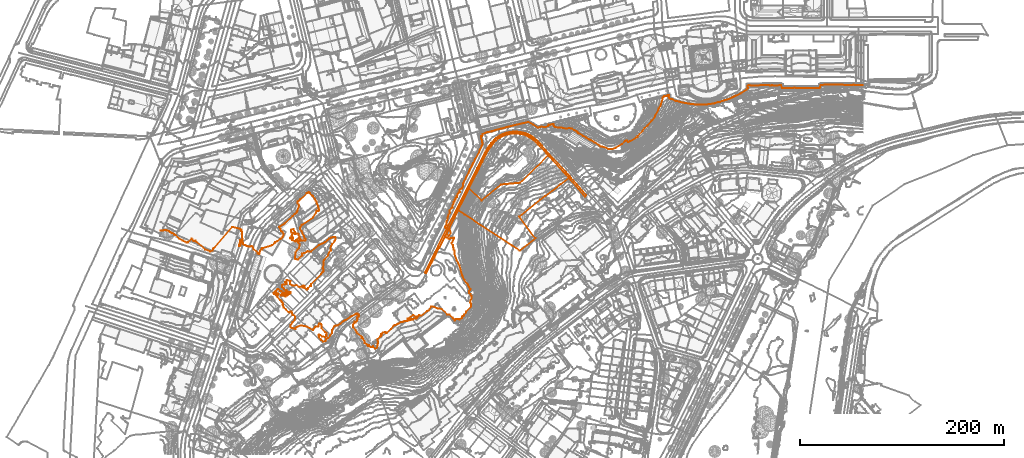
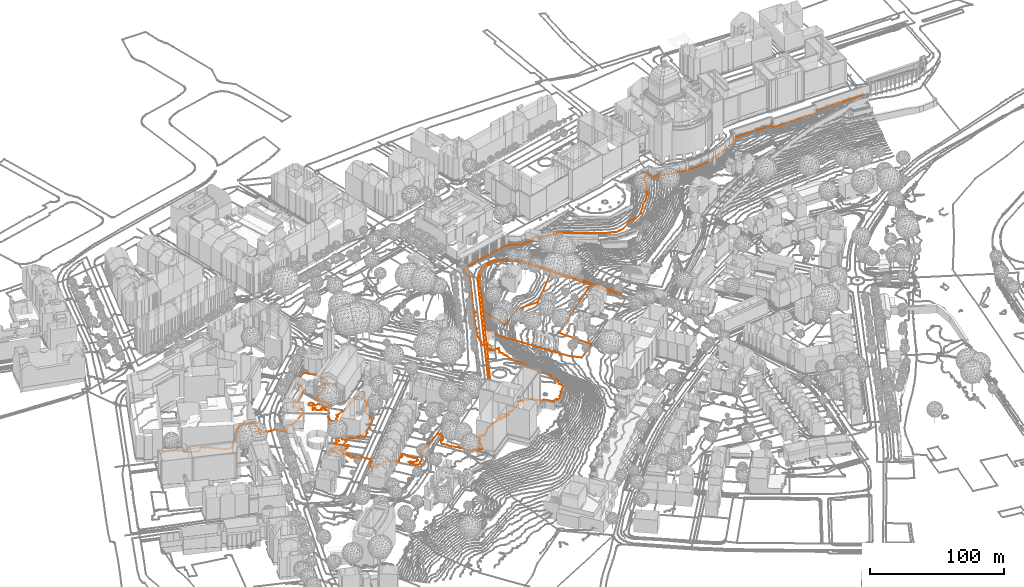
# Not in any storey, part 160 of 477: 2 geographic elements, 1 civil element.
"""IFC4 model written with IfcOpenShell, lengths in metres."""

from ifc_helpers import new_model, entity, si_unit, frame, origin_with_axes, place, context, subcontext, project, spatial, element, save


model = new_model("IFC4")

# Units and contexts
model_context = context("Model", 3, precision=1e-05, world=origin_with_axes())
body_context = subcontext(model_context, "Body", "Model", "MODEL_VIEW")
ifc_project = project(units=[si_unit("AREAUNIT", "SQUARE_METRE"), si_unit("LENGTHUNIT", "METRE")], contexts=[model_context])

# Sites
site_1_placement = place(None, origin_with_axes())
site_1 = spatial("IfcSite", under=ifc_project, at=site_1_placement, Name="Topoexport Site")
site_2_placement = place(site_1_placement, origin_with_axes())
site_2 = spatial("IfcSite", under=site_1, at=site_2_placement, Name="TPX_ROADS_OUTLINES")

# Civil element
civil_element_placement = place(site_2_placement, frame((258.4407320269, 176.5507160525, 534.9932303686), z_axis=(0.0, 0.0, 1.0), x_axis=(1.0, 0.0, 0.0)))
element("IfcCivilElement", 1, at=civil_element_placement, inside=site_2, Name="Roads Outline 39", ObjectType="ROAD", context=body_context, shape_type="GeometricCurveSet", body=[
    entity("IfcGeometricCurveSet", [entity("IfcIndexedPolyCurve", entity("IfcCartesianPointList3D", [[0.0, 0.0, 0.0], [28.0809999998, 55.9379999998, -2.1941897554], [51.3589999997, 102.412, -2.7051865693], [58.4509999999, 116.6199999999, -2.9280184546], [59.395, 118.3809999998, -2.9184431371], [60.4019999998, 120.108, -2.9298762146], [61.4689999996, 121.7969999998, -3.0008347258], [62.5959999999, 123.4479999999, -3.064816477], [63.7909999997, 125.0719999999, -3.1437195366], [65.0439999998, 126.652, -3.2449604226], [66.3529999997, 128.186, -3.3638527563], [67.7169999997, 129.6719999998, -3.4773492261], [68.7769999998, 130.669, -3.5242470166], [69.8869999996, 131.6089999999, -3.6548779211], [71.0449999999, 132.49, -3.7884079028], [72.2479999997, 133.3089999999, -3.9108324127], [73.3689999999, 133.9809999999, -4.0461532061], [74.5179999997, 134.605, -4.1854265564], [75.6919999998, 135.179, -4.3173669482], [76.8909999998, 135.7009999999, -4.4718245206], [78.1099999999, 136.1719999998, -4.6067301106], [79.2829999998, 136.5669999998, -4.7459179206], [80.4699999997, 136.9139999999, -4.8985820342], [81.6709999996, 137.2139999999, -5.0390430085], [82.8819999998, 137.4649999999, -5.2125437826], [84.0219999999, 137.6649999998, -5.386561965], [85.1699999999, 137.814, -5.5716109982], [86.3239999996, 137.912, -5.755787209], [87.693, 137.9609999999, -5.9784115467], [89.0619999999, 137.9379999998, -6.2307997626], [90.4279999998, 137.8429999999, -6.4846069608], [90.9819999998, 137.7819999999, -6.581986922], [91.5349999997, 137.7179999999, -6.7101741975], [92.0959999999, 137.6479999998, -6.8181850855], [92.6569999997, 137.5729999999, -6.919363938], [93.1999999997, 137.4939999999, -7.0449811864], [93.7419999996, 137.4069999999, -7.1700640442], [94.2889999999, 137.3099999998, -7.2558833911], [94.835, 137.2049999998, -7.3405940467], [95.3729999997, 137.0919999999, -7.4646587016], [95.909, 136.9719999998, -7.5907427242], [96.4519999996, 136.8399999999, -7.695318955], [96.9939999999, 136.7009999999, -7.8042030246], [97.5429999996, 136.5549999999, -7.9361181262], [98.0869999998, 136.3939999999, -8.0451588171], [98.6119999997, 136.2259999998, -8.1346325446], [99.1299999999, 136.0389999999, -8.2594257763], [99.6309999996, 135.8289999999, -8.3953654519], [100.1299999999, 135.615, -8.5004742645], [100.639, 135.3929999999, -8.5900460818], [101.1429999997, 135.1609999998, -8.6610349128], [102.1369999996, 134.669, -8.86525333], [102.6329999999, 134.4099999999, -8.9685751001], [103.125, 134.142, -9.0752280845], [103.5979999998, 133.8709999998, -9.194695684], [104.0669999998, 133.5919999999, -9.3115271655], [104.5389999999, 133.3029999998, -9.4322658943], [105.0039999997, 133.0029999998, -9.5430415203], [105.4669999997, 132.6849999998, -9.6327798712], [105.926, 132.362, -9.7249984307], [106.6689999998, 131.8189999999, -9.9233890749], [106.7859999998, 131.7349999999, -9.9518808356], [107.6719999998, 131.0669999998, -10.1928173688], [108.5899999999, 130.3289999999, -10.3543799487], [109.4149999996, 129.5829999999, -10.5653008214], [110.8169999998, 128.2629999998, -10.9705973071], [111.5739999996, 127.463, -11.2037465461], [112.341, 126.6399999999, -11.4196706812], [113.1819999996, 125.7659999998, -11.6384592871], [114.6689999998, 124.1469999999, -12.0301406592], [118.8789999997, 119.598, -13.1267878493], [138.537, 98.2239999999, -18.2417623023], [140.0419999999, 96.595, -18.6389232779], [141.5259999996, 94.9469999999, -19.0241555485], [142.5049999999, 93.838, -19.2953215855], [143.4739999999, 92.7209999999, -19.5544556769], [158.2519999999, 75.6159999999, -23.1454427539], [157.0629999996, 74.588, -23.2337562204], [156.9139999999, 74.4589999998, -23.2733692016], [142.2559999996, 91.6719999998, -19.8701355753], [141.2939999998, 92.777, -19.2123920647], [140.3259999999, 93.8779999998, -19.0018966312], [138.8489999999, 95.5159999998, -18.6023526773], [137.3529999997, 97.1359999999, -18.2573435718], [121.9359999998, 113.9509999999, -14.1481618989], [121.0049999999, 114.9839999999, -13.8669859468], [120.0639999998, 116.0089999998, -13.5989385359], [119.4389999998, 116.6779999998, -13.4766328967], [118.8099999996, 117.3429999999, -13.3391813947], [112.2089999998, 124.4679999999, -11.5678379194], [111.1819999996, 125.5489999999, -11.2597870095], [110.4559999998, 126.328, -11.0664479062], [109.7319999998, 127.0649999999, -10.9305952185], [108.4159999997, 128.3909999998, -10.5483261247], [107.5529999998, 129.1209999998, -10.3187222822], [106.713, 129.808, -10.1239754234], [106.8429999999, 129.9859999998, -10.1139167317], [106.0159999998, 130.618, -9.93410246], [105.5349999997, 130.929, -9.8262239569], [105.4509999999, 130.8019999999, -9.8125750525], [105.0439999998, 131.0989999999, -9.6743166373], [104.179, 131.666, -9.4657143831], [103.3119999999, 132.2379999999, -9.272102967], [102.3809999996, 132.7689999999, -9.0337141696], [101.4709999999, 133.26, -8.8326163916], [100.5069999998, 133.72, -8.5761258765], [99.5449999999, 134.166, -8.3607004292], [98.7909999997, 134.5, -8.2279269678], [98.8589999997, 134.686, -8.2342245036], [98.287, 134.906, -8.0808136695], [97.7069999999, 135.1009999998, -7.9246045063], [97.2109999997, 135.2459999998, -7.8267730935], [96.71, 135.3729999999, -7.7247022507], [96.645, 135.176, -7.7168262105], [95.6149999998, 135.4479999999, -7.5981515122], [94.6119999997, 135.6609999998, -7.3517283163], [93.5689999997, 135.8359999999, -7.2071753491], [92.4819999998, 135.96, -6.8781154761], [91.3899999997, 136.0859999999, -6.5484054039], [90.2999999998, 136.1969999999, -6.3251213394], [89.1109999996, 136.314, -6.081226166], [87.716, 136.338, -5.9369522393], [86.3219999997, 136.284, -5.7734608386], [84.9249999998, 136.152, -5.583743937], [83.537, 135.9419999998, -5.3670835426], [80.9519999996, 135.358, -5.0110264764], [78.605, 134.629, -4.7393588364], [78.0719999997, 134.4669999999, -4.6891772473], [77.548, 134.2759999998, -4.6073420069], [76.8569999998, 133.9689999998, -4.42221271], [76.1909999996, 133.6109999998, -4.3380241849], [73.8669999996, 132.4009999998, -4.0671826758], [71.7409999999, 131.041, -3.8227268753], [69.7879999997, 129.4819999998, -3.5710585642], [68.0319999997, 127.6779999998, -3.4375213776], [66.395, 125.7749999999, -3.2821843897], [64.6739999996, 123.575, -2.8625301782], [64.477, 123.7119999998, -2.9101156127], [63.3959999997, 122.142, -2.8953436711], [63.5829999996, 122.024, -2.8666530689], [62.0629999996, 119.6649999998, -2.7936856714], [60.6409999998, 117.308, -2.8427328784], [60.4449999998, 117.399, -2.8604498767], [59.622, 115.841, -2.8083477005], [59.8129999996, 115.737, -2.7867799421], [57.2109999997, 110.5419999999, -2.7858780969], [57.0069999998, 110.6209999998, -2.7920559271], [56.176, 108.9949999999, -2.8837072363], [56.3729999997, 108.8779999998, -2.8921651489], [53.7089999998, 103.5469999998, -2.7691698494], [53.5069999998, 103.6409999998, -2.7660103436], [52.7369999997, 102.102, -2.7572973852], [52.9339999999, 101.9839999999, -2.7746390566], [28.9139999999, 53.8529999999, -2.0496232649], [13.9579999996, 24.041, -1.1704440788], [13.8149999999, 24.115, -1.1579527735], [9.3199999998, 15.162, -0.6639904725], [1.3629999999, -0.6850000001, -0.0392285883], [0.0, 0.0, 0.0]]))]),
])

# Site
site_3_placement = place(site_1_placement, origin_with_axes())
site_3 = spatial("IfcSite", under=site_1, at=site_3_placement, Name="TPX_CADASTRES")

# Geographic element
geographic_element_1_placement = place(site_3_placement, frame((290.9347320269, 237.4897160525, 532.4584425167), z_axis=(0.0, 0.0, 1.0), x_axis=(1.0, 0.0, 0.0)))
element("IfcGeographicElement", 2, at=geographic_element_1_placement, inside=site_3, Name="Cadastre 36", PredefinedType="NOTDEFINED", context=body_context, shape_type="GeometricCurveSet", body=[
    entity("IfcGeometricCurveSet", [entity("IfcIndexedPolyCurve", entity("IfcCartesianPointList3D", [[0.0, 0.0, 0.0], [10.662, 21.257, -0.291453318], [22.8699999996, 9.4709999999, -10.02995243], [42.0979999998, 25.2819999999, -12.0196683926], [60.9249999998, 26.9319999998, -13.272535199], [88.4239999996, 53.9829999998, -11.3228963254], [103.165, 37.9399999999, -15.145095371], [105.2059999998, 35.6449999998, -15.888453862], [105.2760000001, 35.706, -15.8650785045], [108.852, 31.6349999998, -16.7063478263], [108.4399999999, 31.3229999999, -16.7585370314], [100.7109999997, 25.473, -18.8629936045], [85.3429999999, 13.8219999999, -19.50225592], [80.389, 10.3199999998, -20.4497011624], [60.0189999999, -6.432, -20.6967910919], [75.7939999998, -27.493, -23.6460400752], [60.5039999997, -39.6310000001, -23.0355200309], [52.9589999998, -34.689, -22.2993889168], [6.2429999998, -4.0890000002, -4.7964509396], [0.0, 0.0, 0.0]]))]),
])

# Site
site_4_placement = place(site_1_placement, origin_with_axes())
site_4 = spatial("IfcSite", under=site_1, at=site_4_placement, Name="TPX_CONTOUR_LINES")

# Geographic element
geographic_element_2_placement = place(site_4_placement, frame((-0.8222679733, 217.480918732, 533.0), z_axis=(0.0, 0.0, 1.0), x_axis=(1.0, 0.0, 0.0)))
element("IfcGeographicElement", 3, at=geographic_element_2_placement, inside=site_4, Name="Contour Line 533.0 m", PredefinedType="NOTDEFINED", context=body_context, shape_type="GeometricCurveSet", body=[
    entity("IfcGeometricCurveSet", [entity("IfcIndexedPolyCurve", entity("IfcCartesianPointList3D", [[689.0, 142.7325738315, 0.0], [679.5, 142.9629616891, 0.0], [676.5, 142.7258382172, 0.0], [672.5, 142.9539471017, 0.0], [671.5, 142.7337571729, 0.0], [668.5, 143.0586924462, 0.0], [647.5, 142.9484146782, 0.0], [647.0990375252, 142.6897973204, 0.0], [646.5, 140.0484453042, 0.0], [645.5, 139.8931886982, 0.0], [634.5, 139.9303334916, 0.0], [631.5, 139.678867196, 0.0], [627.5, 139.9935244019, 0.0], [624.5, 139.7514564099, 0.0], [621.5, 140.0660688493, 0.0], [616.5, 139.590720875, 0.0], [612.5, 139.9324431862, 0.0], [609.5, 139.6819913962, 0.0], [608.5489966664, 142.6897973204, 0.0], [607.5, 142.8733901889, 0.0], [604.5, 142.2460552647, 0.0], [601.5, 142.1967164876, 0.0], [599.5, 142.5562218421, 0.0], [597.5, 142.126823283, 0.0], [596.5, 142.5094188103, 0.0], [594.5, 142.6757826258, 0.0], [580.5, 142.2963387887, 0.0], [576.5, 142.5947470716, 0.0], [575.4489240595, 141.6897973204, 0.0], [575.9592691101, 139.6897973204, 0.0], [574.5, 138.1688085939, 0.0], [568.5, 134.4263438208, 0.0], [564.5, 132.2679764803, 0.0], [563.5, 132.1103323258, 0.0], [562.5, 131.275268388, 0.0], [561.5, 131.0848554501, 0.0], [560.5, 130.4458472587, 0.0], [555.5, 128.442667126, 0.0], [553.5, 128.0515485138, 0.0], [552.5, 127.4846581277, 0.0], [550.5, 127.1179730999, 0.0], [548.5, 126.2928979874, 0.0], [546.5, 126.0508003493, 0.0], [543.5, 124.8773699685, 0.0], [537.5, 123.9139763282, 0.0], [533.5, 123.6444730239, 0.0], [527.5, 123.3655762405, 0.0], [519.5, 124.1824189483, 0.0], [512.5, 125.3999912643, 0.0], [508.5, 126.2992649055, 0.0], [506.5, 127.0730645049, 0.0], [505.5, 126.9365635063, 0.0], [501.5, 128.7845143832, 0.0], [500.5, 128.9496374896, 0.0], [499.3840748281, 129.6897973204, 0.0], [498.611930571, 130.6897973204, 0.0], [498.2703512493, 131.6897973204, 0.0], [498.5732363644, 132.6897973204, 0.0], [497.3119762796, 132.6897973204, 0.0], [496.5, 132.095711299, 0.0], [493.9817403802, 131.6897973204, 0.0], [493.5, 131.0922284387, 0.0], [492.2654750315, 130.6897973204, 0.0], [492.478348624, 129.6897973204, 0.0], [490.3188537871, 122.6897973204, 0.0], [488.5747082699, 119.6897973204, 0.0], [485.0818709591, 112.6897973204, 0.0], [484.8123159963, 111.6897973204, 0.0], [481.6635665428, 107.6897973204, 0.0], [477.5, 103.1456046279, 0.0], [474.6155037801, 100.6897973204, 0.0], [472.4549680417, 97.6897973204, 0.0], [467.8142038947, 92.6897973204, 0.0], [467.6965117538, 91.6897973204, 0.0], [466.5, 91.2222202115, 0.0], [460.5, 87.6061180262, 0.0], [458.5, 86.9833341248, 0.0], [457.5, 88.155541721, 0.0], [456.5, 88.1319359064, 0.0], [455.5, 87.7309512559, 0.0], [452.5, 85.0844570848, 0.0], [446.5, 81.3190067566, 0.0], [443.5, 80.1349724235, 0.0], [442.5, 80.0049093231, 0.0], [439.5, 79.8281267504, 0.0], [434.5, 82.0857880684, 0.0], [431.5, 82.6363149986, 0.0], [430.5, 83.6462669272, 0.0], [425.5, 86.3618793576, 0.0], [424.5, 87.320550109, 0.0], [421.5, 88.6600932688, 0.0], [420.5, 89.5299219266, 0.0], [419.5, 89.6661478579, 0.0], [417.5, 91.2826106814, 0.0], [414.4970876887, 92.6897973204, 0.0], [410.5, 95.4122106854, 0.0], [409.5, 95.6002950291, 0.0], [409.0425281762, 96.6897973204, 0.0], [408.5, 97.1897412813, 0.0], [405.5, 98.5353620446, 0.0], [403.5, 99.8432689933, 0.0], [400.5, 100.6287044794, 0.0], [397.5, 99.8942775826, 0.0], [394.5, 100.7437810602, 0.0], [387.5, 101.3828799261, 0.0], [386.7378252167, 101.6897973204, 0.0], [386.012470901, 102.6897973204, 0.0], [385.5927903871, 103.6897973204, 0.0], [385.5718785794, 104.6897973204, 0.0], [384.28297573, 104.6897973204, 0.0], [381.5, 103.575047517, 0.0], [380.5, 103.7756216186, 0.0], [380.0989029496, 102.6897973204, 0.0], [377.5, 101.5013529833, 0.0], [375.5, 101.5521481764, 0.0], [373.5, 101.9851517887, 0.0], [370.5, 101.1551063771, 0.0], [369.5, 101.1738391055, 0.0], [365.5, 103.8936464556, 0.0], [360.5, 106.4992039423, 0.0], [341.5, 102.0388751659, 0.0], [339.5, 101.3165961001, 0.0], [336.5, 100.6994338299, 0.0], [335.5, 100.2027773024, 0.0], [332.5, 99.8204772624, 0.0], [330.5, 98.9967817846, 0.0], [328.5, 98.7447821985, 0.0], [327.5, 98.1184524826, 0.0], [325.23229384, 97.6897973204, 0.0], [324.5, 97.196977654, 0.0], [320.8131724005, 96.6897973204, 0.0], [315.8266126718, 94.6897973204, 0.0], [315.8602408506, 93.6897973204, 0.0], [315.5, 92.7801881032, 0.0], [314.5, 92.5368942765, 0.0], [314.3462699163, 91.6897973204, 0.0], [314.34447031, 90.6897973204, 0.0], [315.1430671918, 88.6897973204, 0.0], [315.3243328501, 86.6897973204, 0.0], [315.7783505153, 85.6897973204, 0.0], [315.6815552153, 84.6897973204, 0.0], [314.9109852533, 82.6897973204, 0.0], [313.2642926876, 79.6897973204, 0.0], [312.191366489, 76.6897973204, 0.0], [308.5, 70.3289121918, 0.0], [308.0096344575, 68.6897973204, 0.0], [306.5, 66.0930294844, 0.0], [306.2056519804, 64.6897973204, 0.0], [305.5, 63.9927690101, 0.0], [305.0379611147, 62.6897973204, 0.0], [303.5, 60.3239387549, 0.0], [303.1837666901, 58.6897973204, 0.0], [302.5, 58.0422099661, 0.0], [302.1222935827, 56.6897973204, 0.0], [299.5, 52.0733935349, 0.0], [299.1985012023, 50.6897973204, 0.0], [297.5, 48.2190452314, 0.0], [297.0533161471, 46.6897973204, 0.0], [296.5, 45.9794372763, 0.0], [296.5296854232, 43.6897973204, 0.0], [295.9673335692, 41.6897973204, 0.0], [295.5, 41.2192562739, 0.0], [294.5, 40.9869705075, 0.0], [293.4358622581, 39.6897973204, 0.0], [293.1372138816, 38.6897973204, 0.0], [293.6577021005, 37.6897973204, 0.0], [292.5, 37.2066905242, 0.0], [291.5, 35.8909276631, 0.0], [290.5, 33.8930765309, 0.0], [290.6980752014, 32.6897973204, 0.0], [289.5, 31.969983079, 0.0], [289.3311558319, 30.6897973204, 0.0], [288.5, 29.8235954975, 0.0], [288.1819576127, 28.6897973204, 0.0], [287.5, 28.03600772, 0.0], [287.4041491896, 26.6897973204, 0.0], [286.4033401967, 24.6897973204, 0.0], [286.5167023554, 22.6897973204, 0.0], [285.5, 21.9564086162, 0.0], [283.5, 19.7504653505, 0.0], [283.5, 18.4547785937, 0.0], [284.0550271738, 17.6897973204, 0.0], [282.4185385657, 15.6897973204, 0.0], [281.517699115, 12.6897973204, 0.0], [281.3542880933, 10.6897973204, 0.0], [280.5, 8.7591614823, 0.0], [280.5, 5.9755116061, 0.0], [279.5, 4.7246810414, 0.0], [279.1814310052, 3.6897973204, 0.0], [279.5, 2.4321442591, 0.0], [280.5, 1.5078120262, 0.0], [281.5, 1.6689277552, 0.0], [281.9357585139, 0.6897973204, 0.0], [282.5, 0.223982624, 0.0], [283.2730646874, 0.6897973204, 0.0], [283.5392156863, 1.6897973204, 0.0], [284.6072056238, -2.3102026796, 0.0], [282.5, -5.1136214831, 0.0], [280.5, -3.2858437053, 0.0], [279.2403339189, -5.3102026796, 0.0], [279.5, -5.793440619, 0.0], [280.5, -6.7441440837, 0.0], [281.5, -6.6209869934, 0.0], [282.5, -7.5552243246, 0.0], [283.5, -8.0256838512, 0.0], [284.5, -7.4155778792, 0.0], [285.5, -7.4400201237, 0.0], [287.5, -6.7220414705, 0.0], [288.0653753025, -7.3102026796, 0.0], [287.2079796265, -8.3102026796, 0.0], [286.5, -10.6875611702, 0.0], [285.3701517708, -12.3102026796, 0.0], [286.839817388, -14.3102026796, 0.0], [286.7548895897, -16.3102026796, 0.0], [287.4756262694, -17.3102026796, 0.0], [287.6084689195, -18.3102026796, 0.0], [288.4166926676, -19.3102026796, 0.0], [288.2315974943, -22.3102026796, 0.0], [290.5, -28.9665953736, 0.0], [291.9266183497, -31.3102026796, 0.0], [293.212943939, -34.3102026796, 0.0], [296.0311329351, -44.3102026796, 0.0], [298.027547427, -48.3102026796, 0.0], [300.5, -51.9496763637, 0.0], [301.5, -52.6985472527, 0.0], [302.5, -55.409562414, 0.0], [303.9236262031, -57.3102026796, 0.0], [303.6166838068, -58.3102026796, 0.0], [302.819208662, -59.3102026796, 0.0], [302.6403311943, -60.3102026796, 0.0], [302.7377908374, -61.3102026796, 0.0], [303.8835894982, -62.3102026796, 0.0], [304.932969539, -64.3102026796, 0.0], [305.0315671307, -66.3102026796, 0.0], [304.0442283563, -68.3102026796, 0.0], [303.5715029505, -70.3102026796, 0.0], [304.5, -71.5341928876, 0.0], [304.7328884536, -72.3102026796, 0.0], [304.6644580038, -74.3102026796, 0.0], [299.7905378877, -79.3102026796, 0.0], [299.6720212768, -80.3102026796, 0.0], [297.6906318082, -82.3102026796, 0.0], [297.5, -83.1085083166, 0.0], [296.5, -83.5275195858, 0.0], [295.7120585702, -84.3102026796, 0.0], [295.5, -85.4774042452, 0.0], [293.5, -86.9644709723, 0.0], [291.5, -86.4499485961, 0.0], [289.5, -86.8283303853, 0.0], [288.5, -88.3468900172, 0.0], [288.1902258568, -87.3102026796, 0.0], [286.9252122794, -86.3102026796, 0.0], [286.4220470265, -85.3102026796, 0.0], [283.5, -82.3480337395, 0.0], [281.2200260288, -82.3102026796, 0.0], [275.5, -76.8098193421, 0.0], [272.2073490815, -76.3102026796, 0.0], [266.5, -74.3184671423, 0.0], [265.5, -74.590904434, 0.0], [262.8658415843, -78.3102026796, 0.0], [261.5, -78.7729686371, 0.0], [255.5, -83.4789598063, 0.0], [254.2983539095, -83.3102026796, 0.0], [253.5, -82.591684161, 0.0], [252.5, -84.2036267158, 0.0], [252.0252525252, -84.3102026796, 0.0], [251.6169916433, -85.3102026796, 0.0], [250.6698924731, -86.3102026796, 0.0], [248.7045454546, -86.3102026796, 0.0], [249.5, -86.2284269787, 0.0], [249.9734939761, -85.3102026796, 0.0], [249.920689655, -84.3102026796, 0.0], [247.5, -82.9258276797, 0.0], [242.2807228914, -86.3102026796, 0.0], [242.5, -86.6786237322, 0.0], [243.5, -86.9445719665, 0.0], [247.5, -86.5347789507, 0.0], [247.7995090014, -87.3102026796, 0.0], [244.5, -87.5276714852, 0.0], [243.5, -87.7384682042, 0.0], [243.0630114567, -88.3102026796, 0.0], [239.5, -88.6977133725, 0.0], [238.3281505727, -89.3102026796, 0.0], [235.5, -89.736383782, 0.0], [233.5, -91.1227026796, 0.0], [232.5, -91.3524925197, 0.0], [230.5, -92.5404509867, 0.0], [229.5, -92.6977528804, 0.0], [228.6632373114, -93.3102026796, 0.0], [226.0675675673, -96.3102026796, 0.0], [221.5, -100.6081556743, 0.0], [220.7591894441, -100.3102026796, 0.0], [220.5, -99.5061091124, 0.0], [218.5, -99.7527492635, 0.0], [217.5, -101.0658034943, 0.0], [216.4575757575, -101.3102026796, 0.0], [216.7861635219, -102.3102026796, 0.0], [216.5, -103.4280020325, 0.0], [215.5, -103.7525332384, 0.0], [213.0860409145, -106.3102026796, 0.0], [212.7476780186, -107.3102026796, 0.0], [213.5, -108.9023079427, 0.0], [213.5295898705, -110.3102026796, 0.0], [212.8537082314, -111.3102026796, 0.0], [212.5, -114.7636692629, 0.0], [210.5, -115.5400819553, 0.0], [208.6056277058, -114.3102026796, 0.0], [208.5, -112.9696229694, 0.0], [207.5, -114.0733094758, 0.0], [206.5, -113.9783516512, 0.0], [205.5, -113.496284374, 0.0], [204.5, -112.3848826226, 0.0], [203.5, -113.0663907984, 0.0], [203.3125191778, -112.3102026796, 0.0], [202.5, -111.6040693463, 0.0], [200.1809392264, -110.3102026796, 0.0], [199.9252191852, -108.3102026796, 0.0], [198.5, -105.8938077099, 0.0], [197.3982278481, -105.3102026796, 0.0], [197.4746258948, -104.3102026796, 0.0], [193.5, -101.0097356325, 0.0], [192.3048351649, -99.3102026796, 0.0], [191.49107674, -97.3102026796, 0.0], [189.5, -94.9275496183, 0.0], [188.6683848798, -94.3102026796, 0.0], [188.9200303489, -92.3102026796, 0.0], [189.5, -91.3226057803, 0.0], [190.748046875, -90.3102026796, 0.0], [190.4444444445, -89.3102026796, 0.0], [191.5, -89.9886995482, 0.0], [192.83364486, -88.3102026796, 0.0], [193.1273743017, -87.3102026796, 0.0], [192.9300810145, -85.3102026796, 0.0], [194.2103136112, -84.3102026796, 0.0], [194.903292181, -83.3102026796, 0.0], [194.5054744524, -82.3102026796, 0.0], [193.2954545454, -82.3102026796, 0.0], [193.0494736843, -81.3102026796, 0.0], [192.5, -81.111219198, 0.0], [191.5, -81.8660624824, 0.0], [187.5, -83.7002122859, 0.0], [181.5, -87.6060638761, 0.0], [179.5, -88.5558132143, 0.0], [176.5, -91.0418803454, 0.0], [173.5, -93.0412701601, 0.0], [170.5, -93.3157970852, 0.0], [168.4588465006, -97.3102026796, 0.0], [168.1153028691, -98.3102026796, 0.0], [168.0576036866, -100.3102026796, 0.0], [166.5, -102.8653739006, 0.0], [164.5, -105.1891930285, 0.0], [162.5343888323, -106.3102026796, 0.0], [161.8050770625, -108.3102026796, 0.0], [159.5, -108.7203569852, 0.0], [157.5, -107.4228005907, 0.0], [157.1936913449, -106.3102026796, 0.0], [155.3426361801, -104.3102026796, 0.0], [155.176240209, -102.3102026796, 0.0], [155.5, -102.0857682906, 0.0], [156.5, -102.4222923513, 0.0], [158.5, -103.8634320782, 0.0], [161.5, -104.2997549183, 0.0], [162.7957467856, -103.3102026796, 0.0], [162.6540312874, -102.3102026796, 0.0], [162.9665849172, -101.3102026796, 0.0], [162.7017434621, -100.3102026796, 0.0], [161.5, -99.5860320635, 0.0], [158.1591448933, -95.3102026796, 0.0], [157.8949453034, -94.3102026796, 0.0], [157.9239436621, -92.3102026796, 0.0], [157.5, -91.6785132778, 0.0], [156.5, -91.1421642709, 0.0], [155.3241288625, -91.3102026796, 0.0], [154.8946428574, -92.3102026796, 0.0], [155.0475528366, -93.3102026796, 0.0], [154.5, -93.8626718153, 0.0], [153.5, -94.1026269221, 0.0], [152.5, -93.8768879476, 0.0], [151.8619556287, -94.3102026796, 0.0], [150.5, -95.7589526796, 0.0], [149.5, -97.5541785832, 0.0], [143.5, -94.0871055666, 0.0], [137.5, -92.8665166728, 0.0], [133.4575518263, -94.3102026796, 0.0], [132.4994295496, -95.3102026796, 0.0], [132.7095689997, -96.3102026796, 0.0], [132.5, -96.6007728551, 0.0], [128.5, -95.2652218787, 0.0], [127.6657882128, -94.3102026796, 0.0], [127.7728119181, -92.3102026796, 0.0], [129.5, -89.782584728, 0.0], [131.5, -87.7822674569, 0.0], [132.1733668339, -84.3102026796, 0.0], [130.5, -82.7948180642, 0.0], [129.5, -82.6048455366, 0.0], [128.7548076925, -79.3102026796, 0.0], [128.5, -79.1592055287, 0.0], [127.5, -79.5231113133, 0.0], [126.5, -80.2949672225, 0.0], [125.5, -79.6785760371, 0.0], [123.2211478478, -77.3102026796, 0.0], [120.6739634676, -75.3102026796, 0.0], [120.5047808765, -73.3102026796, 0.0], [119.9912109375, -72.3102026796, 0.0], [120.322265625, -71.3102026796, 0.0], [119.5, -69.8380035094, 0.0], [118.8116883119, -69.3102026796, 0.0], [118.2793733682, -68.3102026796, 0.0], [117.5, -68.0871085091, 0.0], [114.8601220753, -65.3102026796, 0.0], [114.7877697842, -64.3102026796, 0.0], [114.5, -63.8352686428, 0.0], [113.3003220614, -63.3102026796, 0.0], [113.1852071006, -62.3102026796, 0.0], [111.5, -62.097504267, 0.0], [111.0292331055, -61.3102026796, 0.0], [111.5, -60.6163022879, 0.0], [112.5, -60.2410202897, 0.0], [113.2457627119, -60.3102026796, 0.0], [113.5, -61.496747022, 0.0], [114.5, -62.7612371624, 0.0], [115.5, -62.6847567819, 0.0], [116.0449826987, -62.3102026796, 0.0], [115.5, -61.5910245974, 0.0], [114.5, -61.7023959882, 0.0], [113.724264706, -61.3102026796, 0.0], [113.6153846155, -60.3102026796, 0.0], [113.1128364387, -59.3102026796, 0.0], [114.5, -57.5321732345, 0.0], [115.5, -57.1705201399, 0.0], [117.5, -59.0000496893, 0.0], [118.5, -59.0211810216, 0.0], [118.9515752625, -59.3102026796, 0.0], [120.5, -60.901029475, 0.0], [121.5, -61.2790984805, 0.0], [122.5, -60.9150061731, 0.0], [123.5001289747, -61.3102026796, 0.0], [122.5, -62.0459750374, 0.0], [121.5, -61.3534927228, 0.0], [120.5, -61.867768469, 0.0], [119.5, -61.9140533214, 0.0], [118.2587628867, -63.3102026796, 0.0], [118.5, -63.5816643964, 0.0], [119.5, -63.8147758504, 0.0], [120.5, -63.0171671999, 0.0], [121.5, -63.1995386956, 0.0], [121.7380952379, -63.3102026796, 0.0], [121.8515625, -64.3102026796, 0.0], [122.5, -64.4410143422, 0.0], [123.5, -63.5584689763, 0.0], [124.9096109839, -63.3102026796, 0.0], [127.4901477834, -61.3102026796, 0.0], [127.5300601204, -60.3102026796, 0.0], [126.5, -59.9616549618, 0.0], [125.5, -61.0677248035, 0.0], [124.5, -59.4761777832, 0.0], [123.6578947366, -59.3102026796, 0.0], [123.8294573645, -58.3102026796, 0.0], [123.5, -58.2122011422, 0.0], [122.5, -58.8761912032, 0.0], [121.1438653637, -57.3102026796, 0.0], [120.9014209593, -56.3102026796, 0.0], [119.5, -55.2313935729, 0.0], [119.3019578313, -54.3102026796, 0.0], [119.5, -53.2435699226, 0.0], [120.5, -52.7333544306, 0.0], [121.5, -53.0320569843, 0.0], [122.5, -52.306218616, 0.0], [123.5, -52.5610152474, 0.0], [123.8297720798, -52.3102026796, 0.0], [123.6422764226, -51.3102026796, 0.0], [122.4291516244, -50.3102026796, 0.0], [123.7080817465, -49.3102026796, 0.0], [123.5, -48.2175783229, 0.0], [127.5721407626, -49.3102026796, 0.0], [127.0137404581, -51.3102026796, 0.0], [127.3172839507, -52.3102026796, 0.0], [128.5, -53.3606059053, 0.0], [129.5, -53.7804494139, 0.0], [133.5, -53.5262980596, 0.0], [135.5, -54.938489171, 0.0], [136.5, -55.1662466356, 0.0], [138.5, -54.8879193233, 0.0], [139.5, -55.7160219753, 0.0], [139.9424040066, -55.3102026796, 0.0], [139.4264705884, -54.3102026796, 0.0], [140.5, -53.941494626, 0.0], [141.5365448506, -54.3102026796, 0.0], [141.176798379, -55.3102026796, 0.0], [141.5594405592, -56.3102026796, 0.0], [143.5, -57.6786651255, 0.0], [144.5, -57.4606728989, 0.0], [144.6700133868, -56.3102026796, 0.0], [146.5, -54.4969076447, 0.0], [147.5, -54.111204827, 0.0], [147.8101732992, -52.3102026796, 0.0], [157.5, -42.5148150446, 0.0], [158.5, -40.9466341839, 0.0], [159.6670413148, -40.3102026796, 0.0], [160.1892242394, -38.3102026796, 0.0], [159.0342592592, -37.3102026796, 0.0], [159.5631275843, -36.3102026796, 0.0], [160.0681704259, -30.3102026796, 0.0], [160.5, -28.7218720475, 0.0], [164.2297587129, -24.3102026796, 0.0], [165.1393469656, -21.3102026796, 0.0], [167.0943514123, -19.3102026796, 0.0], [166.7217799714, -17.3102026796, 0.0], [167.2437618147, -15.3102026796, 0.0], [168.5, -13.1135323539, 0.0], [170.7666666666, -10.3102026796, 0.0], [171.5747149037, -8.3102026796, 0.0], [171.63064133, -7.3102026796, 0.0], [171.3091286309, -6.3102026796, 0.0], [169.5, -6.076357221, 0.0], [167.5, -6.8402141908, 0.0], [165.5, -7.879046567, 0.0], [164.0404207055, -9.3102026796, 0.0], [161.2578743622, -11.3102026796, 0.0], [155.5, -14.0305982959, 0.0], [147.5, -20.5643784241, 0.0], [144.5, -20.2468142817, 0.0], [141.5, -21.9407988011, 0.0], [139.1183745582, -22.3102026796, 0.0], [138.9524752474, -23.3102026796, 0.0], [139.1893787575, -24.3102026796, 0.0], [136.5566727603, -26.3102026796, 0.0], [134.9643874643, -28.3102026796, 0.0], [134.5, -28.553123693, 0.0], [133.5, -27.6091717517, 0.0], [132.5, -27.6648480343, 0.0], [132.2444204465, -27.3102026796, 0.0], [131.8340471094, -26.3102026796, 0.0], [132.7340710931, -22.3102026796, 0.0], [132.3851766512, -21.3102026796, 0.0], [134.5, -18.3150300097, 0.0], [135.7937853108, -17.3102026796, 0.0], [136.6536025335, -13.3102026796, 0.0], [135.6283018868, -12.3102026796, 0.0], [135.0957894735, -11.3102026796, 0.0], [135.2201735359, -10.3102026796, 0.0], [136.5703125, -10.3102026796, 0.0], [136.1953441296, -9.3102026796, 0.0], [136.2077435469, -8.3102026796, 0.0], [135.5, -7.5579902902, 0.0], [133.1395458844, -9.3102026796, 0.0], [133.4477611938, -10.3102026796, 0.0], [132.5, -10.5129161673, 0.0], [129.2941888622, -9.3102026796, 0.0], [129.2441860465, -8.3102026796, 0.0], [128.5, -7.3102296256, 0.0], [127.5, -7.7024993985, 0.0], [127.1185852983, -7.3102026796, 0.0], [127.5, -6.5505341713, 0.0], [129.5, -7.6730075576, 0.0], [129.9075342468, -7.3102026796, 0.0], [129.7033898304, -6.3102026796, 0.0], [128.7713987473, -5.3102026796, 0.0], [129.4902280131, -2.3102026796, 0.0], [128.5, -1.7278272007, 0.0], [127.8710073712, -0.3102026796, 0.0], [128.2280334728, 0.6897973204, 0.0], [128.5, 1.0099943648, 0.0], [130.5, 1.5457865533, 0.0], [132.0268456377, -1.3102026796, 0.0], [130.5521327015, -2.3102026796, 0.0], [131.4537815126, -3.3102026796, 0.0], [134.5, -2.9410989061, 0.0], [135.362258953, -3.3102026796, 0.0], [135.4616055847, -4.3102026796, 0.0], [136.3857466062, -6.3102026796, 0.0], [135.7718446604, -7.3102026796, 0.0], [137.5, -8.4746871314, 0.0], [138.5, -9.6339206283, 0.0], [140.5, -9.6569768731, 0.0], [141.5, -9.9611873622, 0.0], [142.5, -9.4152168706, 0.0], [142.1724960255, -8.3102026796, 0.0], [141.2857142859, -7.3102026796, 0.0], [140.7345609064, -5.3102026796, 0.0], [138.5, -0.4945528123, 0.0], [137.1203641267, 1.6897973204, 0.0], [137.0307626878, 2.6897973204, 0.0], [137.3657142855, 3.6897973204, 0.0], [138.5, 5.5975226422, 0.0], [139.5, 5.88266604, 0.0], [149.5, 12.8208652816, 0.0], [152.470338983, 17.6897973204, 0.0], [153.2151741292, 19.6897973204, 0.0], [153.5, 19.8126513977, 0.0], [154.5, 19.1852347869, 0.0], [155.386792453, 19.6897973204, 0.0], [155.4572700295, 20.6897973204, 0.0], [154.3614770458, 24.6897973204, 0.0], [153.1067459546, 27.6897973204, 0.0], [153.0924336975, 28.6897973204, 0.0], [152.2091273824, 29.6897973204, 0.0], [151.3526011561, 31.6897973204, 0.0], [149.5360151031, 33.6897973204, 0.0], [148.5, 34.2346986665, 0.0], [146.5, 37.0109750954, 0.0], [145.5, 37.767933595, 0.0], [144.5, 36.8130998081, 0.0], [143.5, 36.7120182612, 0.0], [137.5, 30.8322592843, 0.0], [137.0689427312, 30.6897973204, 0.0], [135.5, 28.8720530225, 0.0], [134.5, 28.445395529, 0.0], [134.2719343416, 27.6897973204, 0.0], [134.5, 26.7982522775, 0.0], [135.5852475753, 25.6897973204, 0.0], [135.8359598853, 24.6897973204, 0.0], [134.147381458, 18.6897973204, 0.0], [133.5, 17.7566170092, 0.0], [131.5, 16.2437125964, 0.0], [129.5, 14.1027910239, 0.0], [121.5, 6.8823480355, 0.0], [117.6294843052, 4.6897973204, 0.0], [116.3977714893, 3.6897973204, 0.0], [117.7383333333, 1.6897973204, 0.0], [118.5, -0.3123385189, 0.0], [119.9234875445, -1.3102026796, 0.0], [120.8009742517, -3.3102026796, 0.0], [119.8306288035, -6.3102026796, 0.0], [118.5, -7.7928693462, 0.0], [117.1955530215, -8.3102026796, 0.0], [114.7247043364, -10.3102026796, 0.0], [112.5875831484, -11.3102026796, 0.0], [111.9682017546, -12.3102026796, 0.0], [109.4070631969, -14.3102026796, 0.0], [99.7415254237, -17.3102026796, 0.0], [99.5, -18.3614624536, 0.0], [98.4527559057, -18.3102026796, 0.0], [97.7955729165, -19.3102026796, 0.0], [97.0337915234, -22.3102026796, 0.0], [96.5, -22.9924867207, 0.0], [95.5, -22.252846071, 0.0], [95.1460674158, -21.3102026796, 0.0], [91.5, -18.3148430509, 0.0], [90.5, -15.5155769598, 0.0], [89.5, -15.2017689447, 0.0], [86.5, -15.834701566, 0.0], [85.5, -15.211518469, 0.0], [84.5, -15.3257284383, 0.0], [83.5, -14.3522096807, 0.0], [82.5, -14.2622375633, 0.0], [81.2003642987, -13.3102026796, 0.0], [81.1697936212, -12.3102026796, 0.0], [80.5, -10.3251652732, 0.0], [79.5, -9.4264817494, 0.0], [79.2279792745, -11.3102026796, 0.0], [78.6975609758, -12.3102026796, 0.0], [78.8009828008, -13.3102026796, 0.0], [77.7001601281, -15.3102026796, 0.0], [77.3262682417, -15.3102026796, 0.0], [77.134845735, -14.3102026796, 0.0], [77.5, -12.5137741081, 0.0], [78.0846153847, -12.3102026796, 0.0], [78.0647597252, -10.3102026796, 0.0], [78.3473534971, -9.3102026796, 0.0], [78.5, -9.1144451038, 0.0], [79.5, -9.2582396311, 0.0], [80.4447640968, -8.3102026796, 0.0], [79.9670231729, -6.3102026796, 0.0], [79.9735432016, -4.3102026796, 0.0], [80.2963483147, -3.3102026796, 0.0], [79.8274883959, -1.3102026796, 0.0], [79.2936955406, -0.3102026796, 0.0], [79.5, 0.7045140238, 0.0], [78.5, 1.5753724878, 0.0], [70.5, 3.7519477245, 0.0], [52.1043689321, -17.3102026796, 0.0], [51.5, -18.0624685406, 0.0], [51.2151702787, -19.3102026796, 0.0], [48.5, -20.3785620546, 0.0], [43.9280936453, -18.3102026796, 0.0], [35.5, -11.3014918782, 0.0], [34.5, -9.8037510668, 0.0], [33.5, -10.1862091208, 0.0], [32.5, -10.0272950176, 0.0], [31.5, -8.5469176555, 0.0], [30.5, -7.798762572, 0.0], [27.1629921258, -11.3102026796, 0.0], [26.5, -11.6267440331, 0.0], [25.5, -11.4628935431, 0.0], [21.5, -9.6867100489, 0.0], [18.5, -7.8286259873, 0.0], [14.6548420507, -4.3102026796, 0.0], [13.5, -3.8327338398, 0.0], [13.3040273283, -3.3102026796, 0.0], [11.5, -2.1326826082, 0.0], [10.5, -2.0282286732, 0.0], [9.5, -1.4796769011, 0.0], [8.5, -0.4913739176, 0.0], [6.5, 0.3072994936, 0.0], [4.5964630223, 0.6897973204, 0.0], [3.403654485, 0.6897973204, 0.0], [2.5, -0.0194595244, 0.0], [0.0, 0.0, 0.0]]))]),
])

save(model, "model.ifc")
